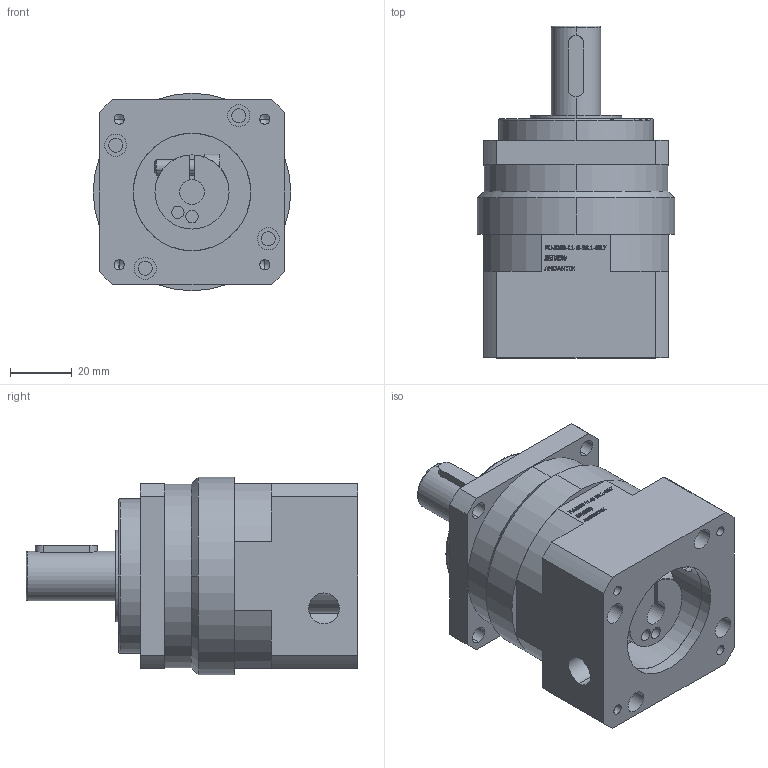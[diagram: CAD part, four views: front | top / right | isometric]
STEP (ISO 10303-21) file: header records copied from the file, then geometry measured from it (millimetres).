
FILE_DESCRIPTION (( 'STEP AP203' ), '1' );
FILE_NAME ('PLM060-L1-8-38.1-66.7.STEP', '2022-07-04T09:31:55', ( 'Windows User' ), ( 'P R C' ), 'SwSTEP 2.0', 'SolidWorks 2016', '' );
FILE_SCHEMA (( 'CONFIG_CONTROL_DESIGN' ));
Length unit declared in the file: millimetre
Products named in the file (5): PLM060俋倛芞奻裔啣_72T; PLM060俋倛芞狟裔啣-8-38.1-M4-66.7; 邧埴瑩 5x5x20; 囀鞠褒蹟佪-M5℅16; PLM060-L1-8-38.1-66.7
Assembly tree (4 placements, depth 2):
  PLM060-L1-8-38.1-66.7
    PLM060俋倛芞奻裔啣_72T
    PLM060俋倛芞狟裔啣-8-38.1-M4-66.7
    邧埴瑩 5x5x20
    囀鞠褒蹟佪-M5℅16
Bounding box: 64 x 107.5 x 64 mm (x, y, z)
Volume: 223818.6 mm3; surface area: 45847.7 mm2
Topology: 4 solids, 4 shells, 792 faces, 2069 edges, 1361 vertices
Faces by surface type: plane 464, bspline 186, cylinder 110, cone 24, torus 8
Entity records: 33268 total; most frequent: CARTESIAN_POINT 14372, ORIENTED_EDGE 4102, DIRECTION 3135, EDGE_CURVE 2051, VECTOR 1419, LINE 1419, VERTEX_POINT 1361, EDGE_LOOP 910
